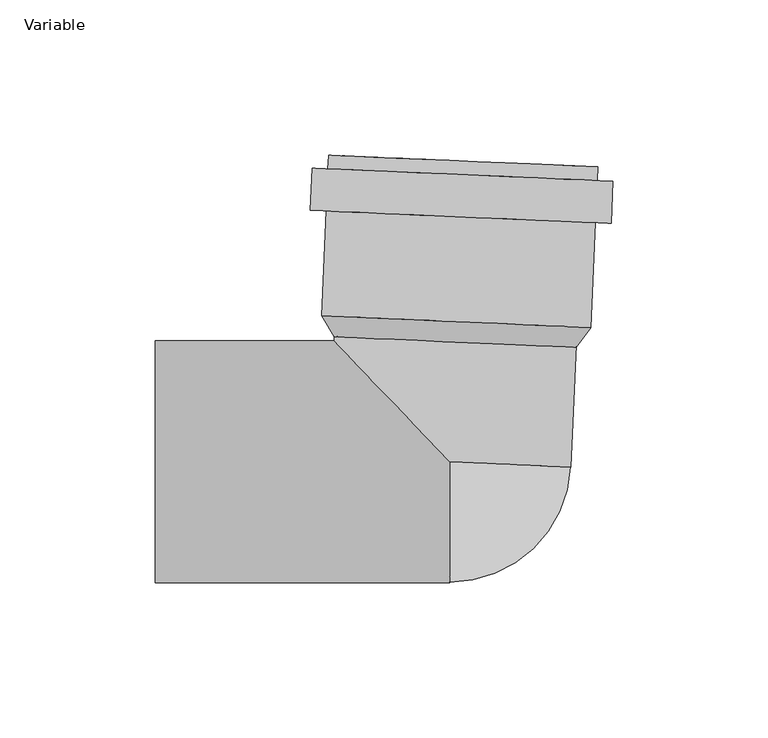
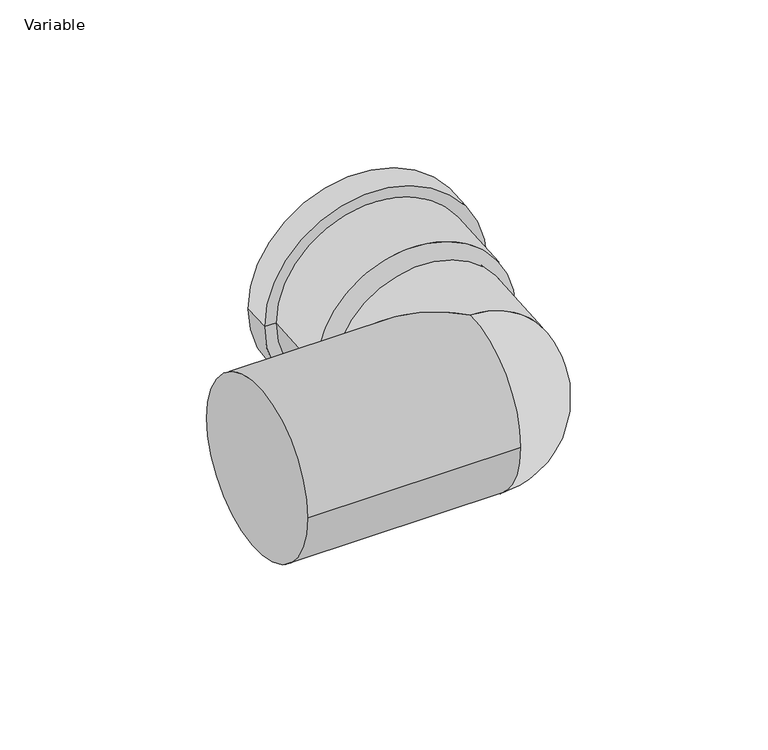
"""IFC4 building model written with IfcOpenShell, lengths in millimetres: pipe fitting geometry, AliaxisFR_Friaphon_ElbowMF_FR : Variable."""

from ifc_helpers import new_model, si_unit, point, frame, origin, place, context, project, spatial, polyline, circle_curve, ellipse_curve, trimmed, source, transform, mapped, element, save
from ifc_brep_helpers import plane_surface, cylinder_surface, revolved_surface, advanced_brep


def variable_9cd8a473(model_context):
    return source(origin(), model_context, "Body", "AdvancedBrep", [
        advanced_brep(
        [(47.5897734, 95.0145961, 0.0), (-39.1276122, 98.8007589, 0.0), (-34.7318001, 98.6088336, 0.0), (43.1939612, 95.2065214, 0.0), (51.8997703, 76.8092692, 0.0), (-45.0079071, 81.0403498, 0.0), (-44.4146835, 94.6274056, 0.0), (52.492994, 90.396325, 0.0), (46.8046244, 77.0317281, 0.0), (-39.9127612, 80.8178909, 0.0), (45.3302891, 43.2638982, 0.0), (-41.3870965, 47.050061, 0.0), (-37.2791723, 40.2644175, 0.0), (40.646589, 36.8621052, 0.0), (47.3978481, 90.6187839, 0.0), (-39.3195375, 94.4049467, 0.0)],
        [
            (0, 1, circle_curve(frame((4.2310806, 96.9076775, 0.0), z_axis=(0.0436193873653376, 0.9990482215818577, 0.0), x_axis=(-0.9990482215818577, 0.0436193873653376, 0.0)), 43.4)),
            (1, 2),
            (2, 3, circle_curve(frame((4.2310806, 96.9076775, 0.0), z_axis=(-0.0436193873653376, -0.9990482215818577, 0.0), x_axis=(-0.9990482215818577, 0.0436193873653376, 0.0)), 39.0)),
            (3, 0),
            (1, 0, circle_curve(frame((4.2310806, 96.9076775, 0.0), z_axis=(0.0436193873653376, 0.9990482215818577, 0.0), x_axis=(-0.9990482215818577, 0.0436193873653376, 0.0)), 43.4)),
            (3, 2, circle_curve(frame((4.2310806, 96.9076775, 0.0), z_axis=(-0.0436193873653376, -0.9990482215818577, 0.0), x_axis=(-0.9990482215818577, 0.0436193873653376, 0.0)), 39.0)),
            (4, 5, circle_curve(frame((3.4459316, 78.9248095, 0.0), z_axis=(0.0436193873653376, 0.9990482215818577, 0.0), x_axis=(-0.9990482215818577, 0.0436193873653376, 0.0)), 48.5)),
            (5, 6),
            (6, 7, circle_curve(frame((4.0391553, 92.5118653, 0.0), z_axis=(-0.0436193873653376, -0.9990482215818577, 0.0), x_axis=(-0.9990482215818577, 0.0436193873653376, 0.0)), 48.5)),
            (7, 4),
            (5, 4, circle_curve(frame((3.4459316, 78.9248095, 0.0), z_axis=(0.0436193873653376, 0.9990482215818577, 0.0), x_axis=(-0.9990482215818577, 0.0436193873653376, 0.0)), 48.5)),
            (7, 6, circle_curve(frame((4.0391553, 92.5118653, 0.0), z_axis=(-0.0436193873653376, -0.9990482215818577, 0.0), x_axis=(-0.9990482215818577, 0.0436193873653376, 0.0)), 48.5)),
            (8, 9, circle_curve(frame((3.4459316, 78.9248095, 0.0), z_axis=(0.0436193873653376, 0.9990482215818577, 0.0), x_axis=(-0.9990482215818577, 0.0436193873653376, 0.0)), 43.4)),
            (9, 5),
            (4, 8),
            (9, 8, circle_curve(frame((3.4459316, 78.9248095, 0.0), z_axis=(0.0436193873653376, 0.9990482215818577, 0.0), x_axis=(-0.9990482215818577, 0.0436193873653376, 0.0)), 43.4)),
            (10, 11, circle_curve(frame((1.9715963, 45.1569796, 0.0), z_axis=(0.0436193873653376, 0.9990482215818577, 0.0), x_axis=(-0.9990482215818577, 0.0436193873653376, 0.0)), 43.4)),
            (11, 9),
            (8, 10),
            (11, 10, circle_curve(frame((1.9715963, 45.1569796, 0.0), z_axis=(0.0436193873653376, 0.9990482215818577, 0.0), x_axis=(-0.9990482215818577, 0.0436193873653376, 0.0)), 43.4)),
            (2, 12),
            (12, 13, circle_curve(frame((1.6837084, 38.5632614, 0.0), z_axis=(-0.0436193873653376, -0.9990482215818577, 0.0), x_axis=(-0.9990482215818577, 0.0436193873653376, 0.0)), 39.0)),
            (13, 3),
            (13, 12, circle_curve(frame((1.6837084, 38.5632614, 0.0), z_axis=(-0.0436193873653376, -0.9990482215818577, 0.0), x_axis=(-0.9990482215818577, 0.0436193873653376, 0.0)), 39.0)),
            (12, 11),
            (10, 13),
            (14, 15, circle_curve(frame((4.0391553, 92.5118653, 0.0), z_axis=(0.0436193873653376, 0.9990482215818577, 0.0), x_axis=(-0.9990482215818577, 0.0436193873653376, 0.0)), 43.4)),
            (15, 1),
            (0, 14),
            (15, 14, circle_curve(frame((4.0391553, 92.5118653, 0.0), z_axis=(0.0436193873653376, 0.9990482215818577, 0.0), x_axis=(-0.9990482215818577, 0.0436193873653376, 0.0)), 43.4)),
            (6, 15),
            (14, 7),
        ],
        [
            plane_surface(frame((4.2310806, 96.9076775, 0.0), z_axis=(0.0436193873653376, 0.9990482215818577, 0.0), x_axis=(-0.9990482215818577, 0.0436193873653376, 0.0))),
            cylinder_surface(frame((1.6837084, 38.5632614, 0.0), z_axis=(-0.0436193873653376, -0.9990482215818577, 0.0), x_axis=(-0.9990482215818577, 0.0436193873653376, 0.0)), 48.5),
            plane_surface(frame((3.4459316, 78.9248095, 0.0), z_axis=(-0.0436193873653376, -0.9990482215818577, 0.0), x_axis=(-0.9990482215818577, 0.0436193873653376, 0.0))),
            cylinder_surface(frame((1.6837084, 38.5632614, 0.0), z_axis=(-0.0436193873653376, -0.9990482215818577, 0.0), x_axis=(-0.9990482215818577, 0.0436193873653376, 0.0)), 43.4),
            revolved_surface(polyline([(-37.279172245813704, 40.26441741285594, 0.0), (-34.73180002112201, 98.60883361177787, 0.0)]), (1.6837084, 38.5632614, 0.0), (-0.0436193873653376, -0.9990482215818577, 0.0)),
            revolved_surface(polyline([(-41.3870965, 47.050061, 0.0), (-37.2791723, 40.2644175, 0.0)]), (1.6837084, 38.5632614, 0.0), (-0.0436193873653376, -0.9990482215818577, 0.0)),
            plane_surface(frame((4.0391553, 92.5118653, 0.0), z_axis=(0.0436193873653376, 0.9990482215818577, 0.0), x_axis=(-0.9990482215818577, 0.0436193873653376, 0.0))),
        ],
        [
            (0, [[1, 2, 3, 4]]),
            (0, [[5, -4, 6, -2]]),
            (1, [[7, 8, 9, 10]]),
            (1, [[11, -10, 12, -8]]),
            (2, [[13, 14, -7, 15]]),
            (2, [[16, -15, -11, -14]]),
            (3, [[17, 18, -13, 19]]),
            (3, [[20, -19, -16, -18]]),
            (4, [[-3, 21, 22, 23]]),
            (4, [[-6, -23, 24, -21]]),
            (5, [[-22, 25, -17, 26]]),
            (5, [[-24, -26, -20, -25]]),
            (3, [[27, 28, -1, 29]]),
            (3, [[30, -29, -5, -28]]),
            (6, [[-9, 31, -27, 32]]),
            (6, [[-12, -32, -30, -31]]),
        ],
    ),
        advanced_brep(
        [(-37.087247, 44.6602296, 0.0), (1.8756337, 42.9590735, 39.0), (40.8385143, 41.2579174, 0.0), (1.8756337, 42.9590735, -39.0), (38.9628806, -1.7011561, 0.0), (-37.3343779, 39.0, 0.0), (0.0, 0.0, 39.0), (0.0, 0.0, -39.0), (-95.0, -39.0, 0.0), (-95.0, 39.0, 0.0), (0.0, -39.0, 0.0)],
        [
            (0, 1, circle_curve(frame((1.8756337, 42.9590735, 0.0), z_axis=(0.043619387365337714, 0.9990482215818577, 0.0), x_axis=(-0.9990482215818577, 0.043619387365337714, 0.0)), 39.0)),
            (1, 2, circle_curve(frame((1.8756337, 42.9590735, 0.0), z_axis=(0.043619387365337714, 0.9990482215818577, 0.0), x_axis=(-0.9990482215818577, 0.043619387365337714, 0.0)), 39.0)),
            (2, 3, circle_curve(frame((1.8756337, 42.9590735, 0.0), z_axis=(0.043619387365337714, 0.9990482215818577, 0.0), x_axis=(-0.9990482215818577, 0.043619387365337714, 0.0)), 39.0)),
            (3, 0, circle_curve(frame((1.8756337, 42.9590735, 0.0), z_axis=(0.043619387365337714, 0.9990482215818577, 0.0), x_axis=(-0.9990482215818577, 0.043619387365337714, 0.0)), 39.0)),
            (4, 2),
            (0, 5),
            (5, 6, ellipse_curve(frame((0.0, 0.0, 0.0), z_axis=(0.7223639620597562, 0.6915130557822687, 0.0), x_axis=(0.6915130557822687, -0.7223639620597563, 0.0)), 53.9894043, 39.0)),
            (6, 4, circle_curve(frame((0.0, 0.0, 0.0), z_axis=(0.043619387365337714, 0.9990482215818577, 0.0), x_axis=(-0.9990482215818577, 0.043619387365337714, 0.0)), 39.0)),
            (4, 7, circle_curve(frame((0.0, 0.0, 0.0), z_axis=(0.043619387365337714, 0.9990482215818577, 0.0), x_axis=(-0.9990482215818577, 0.043619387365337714, 0.0)), 39.0)),
            (7, 5, ellipse_curve(frame((0.0, 0.0, 0.0), z_axis=(0.7223639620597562, 0.6915130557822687, 0.0), x_axis=(0.6915130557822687, -0.7223639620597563, 0.0)), 53.9894043, 39.0)),
            (8, 9, circle_curve(frame((-95.0, 0.0, 0.0), z_axis=(-1.0, 0.0, 0.0), x_axis=(0.0, 1.0, 0.0)), 39.0)),
            (9, 8, circle_curve(frame((-95.0, 0.0, 0.0), z_axis=(-1.0, 0.0, 0.0), x_axis=(0.0, 1.0, 0.0)), 39.0)),
            (8, 10),
            (10, 6, circle_curve(frame((0.0, 0.0, 0.0), z_axis=(-1.0, 0.0, 0.0), x_axis=(0.0, 1.0, 0.0)), 39.0)),
            (5, 9),
            (7, 10, circle_curve(frame((0.0, 0.0, 0.0), z_axis=(-1.0, 0.0, 0.0), x_axis=(0.0, 1.0, 0.0)), 39.0)),
        ],
        [
            plane_surface(frame((1.8756337, 42.9590735, 0.0), z_axis=(0.043619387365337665, 0.9990482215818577, 0.0), x_axis=(0.0, 0.0, 1.0))),
            cylinder_surface(frame((0.0, 0.0, 0.0), z_axis=(-0.043619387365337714, -0.9990482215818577, 0.0), x_axis=(-0.9990482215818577, 0.043619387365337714, 0.0)), 39.0),
            plane_surface(frame((-95.0, 0.0, 0.0), z_axis=(-1.0, 0.0, 0.0), x_axis=(0.0, 0.0, 1.0))),
            cylinder_surface(frame((-95.0, 0.0, 0.0), z_axis=(-1.0, 0.0, 0.0), x_axis=(0.0, 1.0, 0.0)), 39.0),
            revolved_surface(trimmed(ellipse_curve(frame((0.0, 0.0, 0.0), z_axis=(0.0436193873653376, 0.9990482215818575, 0.0), x_axis=(-0.9990482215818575, 0.0436193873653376, 0.0)), 39.0, 39.0), [point((0.0, 0.0, 39.0))], [point((0.0, 0.0, -39.0))], True, "CARTESIAN"), (0.0, 0.0, 39.0), (0.0, 0.0, -1.0)),
        ],
        [
            (0, [[1, 2, 3, 4]]),
            (1, [[5, -2, -1, 6, 7, 8]]),
            (1, [[-5, 9, 10, -6, -4, -3]]),
            (2, [[11, 12]]),
            (3, [[-11, 13, 14, -7, 15]]),
            (3, [[-12, -15, -10, 16, -13]]),
            (4, [[-14, -16, -9, -8]]),
        ],
    ),
    ])


if __name__ == "__main__":
    model = new_model("IFC4")
    model_context = context("Model", 3, world=origin())
    ifc_project = project(units=[si_unit("LENGTHUNIT", "METRE", prefix="MILLI")], contexts=[model_context])
    site = spatial("IfcSite", under=ifc_project)
    building = spatial("IfcBuilding", under=site)
    placement = place(None, origin())
    variable_shape = variable_9cd8a473(model_context)
    element("IfcPipeFitting", 1, ObjectType="AliaxisFR_Friaphon_ElbowMF_FR : Variable", at=placement, inside=building, context=model_context, shape_type="MappedRepresentation", body=[
        mapped(variable_shape, transform((0.0, 0.0, 0.0), x_axis=(1.0, 0.0, 0.0), y_axis=(0.0, 1.0, 0.0), z_axis=(0.0, 0.0, 1.0))),
    ])
    save(model, "model.ifc")
